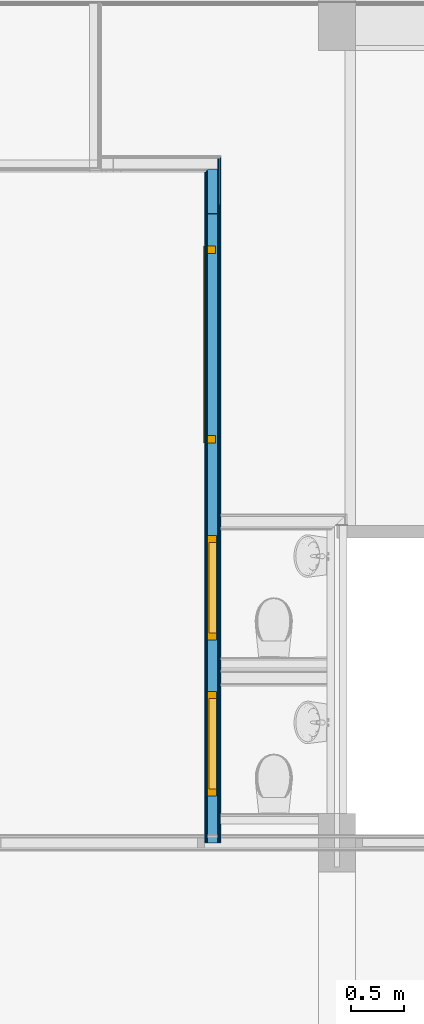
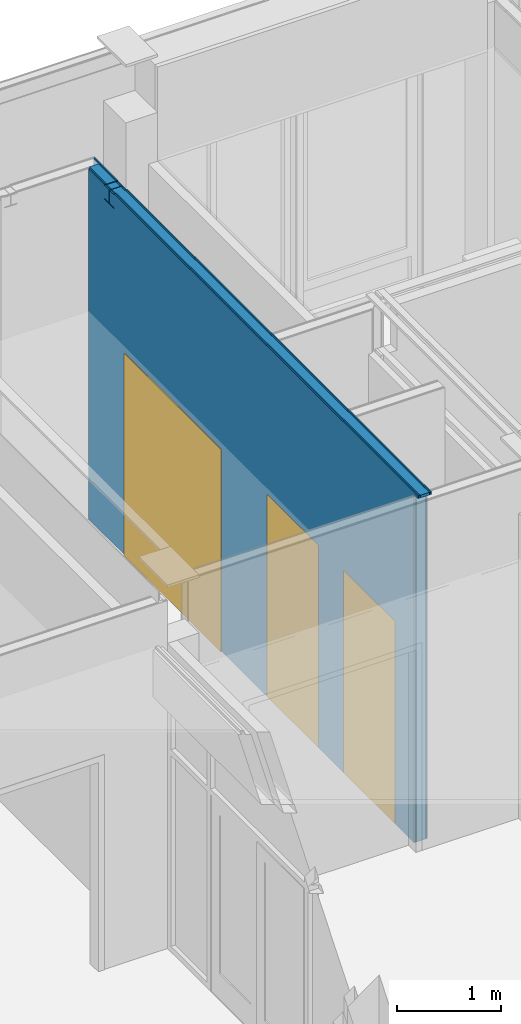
# One storey, part 24 of 109: 5 building element parts, 3 doors, 3 openings, 1 element without a shape of its own.
"""IFC2X3 building model written with IfcOpenShell, lengths in millimetres."""

from ifc_helpers import new_model, entity, si_unit, converted_unit, derived_unit, money_unit, direction, frame, origin_with_axes, place, context, subcontext, project, spatial, faceted_brep, source, transform, mapped, material, type_object, type_shapes, element, fill, aggregate, save


model = new_model("IFC2X3")

# Units and contexts
model_context = context("Model", 3, precision=0.01, world=origin_with_axes(), true_north=direction((0.0, 1.0)))
body_context = subcontext(model_context, "Body", "Model", "MODEL_VIEW")
ifc_project = project(units=[si_unit("LENGTHUNIT", "METRE", prefix="MILLI"), si_unit("AREAUNIT", "SQUARE_METRE"), si_unit("VOLUMEUNIT", "CUBIC_METRE"), converted_unit("PLANEANGLEUNIT", "DEGREE", entity("IfcPlaneAngleMeasure", 0.0174532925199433), si_unit("PLANEANGLEUNIT", "RADIAN"), dimensions=[0, 0, 0, 0, 0, 0, 0]), money_unit("EUR"), converted_unit("TIMEUNIT", "Year", entity("IfcTimeMeasure", 31557600.0), si_unit("TIMEUNIT", "SECOND"), dimensions=[0, 0, 1, 0, 0, 0, 0]), si_unit("MASSUNIT", "GRAM", prefix="KILO"), si_unit("THERMODYNAMICTEMPERATUREUNIT", "DEGREE_CELSIUS"), si_unit("LUMINOUSINTENSITYUNIT", "LUMEN"), si_unit("ENERGYUNIT", "JOULE", prefix="MEGA"), derived_unit("THERMALCONDUCTANCEUNIT", [(si_unit("POWERUNIT", "WATT"), 1), (si_unit("LENGTHUNIT", "METRE"), -1), (si_unit("THERMODYNAMICTEMPERATUREUNIT", "KELVIN"), -1)]), derived_unit("SPECIFICHEATCAPACITYUNIT", [(si_unit("ENERGYUNIT", "JOULE"), 1), (si_unit("MASSUNIT", "GRAM", prefix="KILO"), -1), (si_unit("THERMODYNAMICTEMPERATUREUNIT", "KELVIN"), -1)]), derived_unit("MASSDENSITYUNIT", [(si_unit("MASSUNIT", "GRAM", prefix="KILO"), 1), (si_unit("VOLUMEUNIT", "CUBIC_METRE"), -1)])], contexts=[model_context])

# Site, building, storey
site_placement = place(None, origin_with_axes())
site = spatial("IfcSite", under=ifc_project, at=site_placement, Name="<site naam>", CompositionType="ELEMENT")
building_placement = place(site_placement, origin_with_axes())
building = spatial("IfcBuilding", under=site, at=building_placement, Name="<Naam gebouw>", CompositionType="ELEMENT")
storey_placement = place(building_placement, origin_with_axes())
storey = spatial("IfcBuildingStorey", under=building, at=storey_placement, Name="00 Begane grond", CompositionType="ELEMENT", Elevation=0.0)

# Door
door_style_1 = type_object("IfcDoorStyle", Name="D1 27", ConstructionType="NOTDEFINED", OperationType="SINGLE_SWING_LEFT", ParameterTakesPrecedence=False, Sizeable=False)
shared_shape = source(origin_with_axes(), body_context, "Body", "Brep", [
    faceted_brep([(-442.0, -40.0, 0.0), (-425.0, -40.0, 0.0), (-425.0, -40.0, 12.0), (-442.0, -40.0, 12.0), (442.0, -40.0, 0.0), (425.0, -40.0, 0.0), (425.0, -114.0, 0.0), (-425.0, -114.0, 0.0), (-425.0, -114.0, 11.99999999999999), (425.0, -114.0, 11.99999999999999), (425.0, -40.0, 12.0), (442.0, -40.0, 12.0)], [[[0, 1, 2, 3]], [[0, 4, 5, 6, 7, 1]], [[1, 7, 8, 2]], [[3, 2, 8, 9, 10, 11]], [[4, 0, 3, 11]], [[5, 4, 11, 10]], [[6, 5, 10, 9]], [[7, 6, 9, 8]]]),
    faceted_brep([(425.0, -40.0, 0.0), (425.0, -114.0, 0.0), (425.0, -114.0, 2300.0), (425.0, -39.99999999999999, 2300.0), (442.0, -40.0, 0.0), (442.0, 0.0, 0.0), (492.0, 0.0, 0.0), (492.0, -114.0, 0.0), (492.0, -114.0, 2300.0), (442.0, -40.0, 2300.0), (492.0, 0.0, 2300.0), (442.0, 0.0, 2300.0)], [[[0, 1, 2, 3]], [[4, 5, 6, 7, 1, 0]], [[1, 7, 8, 2]], [[9, 3, 2, 8, 10, 11]], [[9, 4, 0, 3]], [[11, 5, 4, 9]], [[11, 10, 6, 5]], [[6, 10, 8, 7]]]),
    faceted_brep([(-442.0, -40.0, 2300.0), (-442.0, 0.0, 2300.0), (-492.0, 0.0, 2300.0), (-492.0, -114.0, 2300.0), (-425.0, -114.0, 2300.0), (-425.0, -39.99999999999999, 2300.0), (-442.0, -40.0, 0.0), (-442.0, 0.0, 0.0), (-492.0, 0.0, 0.0), (-492.0, -114.0, 0.0), (-425.0, -114.0, 0.0), (-425.0, -40.0, 0.0)], [[[0, 1, 2, 3, 4, 5]], [[0, 6, 7, 1]], [[7, 8, 2, 1]], [[2, 8, 9, 3]], [[3, 9, 10, 4]], [[5, 4, 10, 11]], [[5, 11, 6, 0]], [[6, 11, 10, 9, 8, 7]]]),
    faceted_brep([(442.0, 0.0, 2317.0), (-442.0, 0.0, 2317.0), (-442.0, 0.0, 2300.0), (-492.0, 0.0, 2300.0), (-492.0, 0.0, 2367.0), (492.0, 0.0, 2367.0), (492.0, 0.0, 2300.0), (442.0, 0.0, 2300.0), (442.0, -40.0, 2317.0), (-442.0, -40.0, 2317.0), (-442.0, -40.0, 2300.0), (-425.0, -39.99999999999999, 2300.0), (-425.0, -114.0, 2300.0), (-492.0, -114.0, 2300.0), (-492.0, -114.0, 2367.0), (492.0, -114.0, 2367.0), (492.0, -114.0, 2300.0), (442.0, -40.0, 2300.0), (425.0, -114.0, 2300.0), (425.0, -39.99999999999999, 2300.0)], [[[0, 1, 2, 3, 4, 5, 6, 7]], [[0, 8, 9, 1]], [[1, 9, 10, 2]], [[10, 11, 12, 13, 3, 2]], [[4, 3, 13, 14]], [[5, 4, 14, 15]], [[6, 5, 15, 16]], [[17, 7, 6, 16, 18, 19]], [[7, 17, 8, 0]], [[10, 9, 8, 17, 19, 11]], [[19, 18, 12, 11]], [[12, 18, 16, 15, 14, 13]]]),
    faceted_brep([(-442.0000000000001, 0.0, 0.0), (442.0, 0.0, 0.0), (442.0, -40.0, 0.0), (-442.0000000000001, -40.0, 0.0), (-442.0000000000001, 0.0, 2317.0), (442.0, 0.0, 2317.0), (442.0, -40.00000000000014, 2317.0), (-442.0000000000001, -40.00000000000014, 2317.0)], [[[0, 1, 2, 3]], [[0, 4, 5, 1]], [[1, 5, 6, 2]], [[3, 2, 6, 7]], [[4, 0, 3, 7]], [[5, 4, 7, 6]]]),
])
type_shapes(door_style_1, [shared_shape])
wall_placement = place(storey_placement, frame((14754.95500626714, 12000.00000000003, 0.0), z_axis=(0.0, 0.0, 1.0), x_axis=(0.0, 1.0, 0.0)))
opening_1_placement = place(wall_placement, frame((932.3998761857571, 0.0, 0.0), z_axis=(0.0, 0.0, 1.0), x_axis=(1.0, 0.0, 0.0)))
door_1_placement = place(opening_1_placement, frame((-425.0000000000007, 0.0, 0.0), z_axis=(0.0, 0.0, 1.0), x_axis=(1.0, 0.0, 0.0)))
door_1 = element("IfcDoor", 1, at=door_1_placement, inside=storey, type_object=door_style_1, Name="22_BI-A-01_305", ObjectType="DOOR", OverallHeight=2367.0, OverallWidth=984.0, context=body_context, shape_type="MappedRepresentation", body=[
    mapped(shared_shape, transform((425.0000000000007, 0.0, 0.0))),
])

opening_3_placement = place(wall_placement, frame((2400.219693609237, 0.0, 0.0), z_axis=(0.0, 0.0, 1.0), x_axis=(1.0, 0.0, 0.0)))
door_2_placement = place(opening_3_placement, frame((-425.0000000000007, 0.0, 0.0), z_axis=(0.0, 0.0, 1.0), x_axis=(1.0, 0.0, 0.0)))
door_2 = element("IfcDoor", 2, at=door_2_placement, inside=storey, type_object=door_style_1, Name="22_BI-A-01_305", ObjectType="DOOR", OverallHeight=2367.0, OverallWidth=984.0, context=body_context, shape_type="MappedRepresentation", body=[
    mapped(shared_shape, transform((425.0000000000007, 0.0, 0.0))),
])

door_style_2 = type_object("IfcDoorStyle", Name="D2 27", ConstructionType="NOTDEFINED", OperationType="DOUBLE_DOOR_SINGLE_SWING", ParameterTakesPrecedence=False, Sizeable=False)
opening_2_placement = place(wall_placement, frame((4686.253190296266, 0.0, 0.0), z_axis=(0.0, 0.0, 1.0), x_axis=(1.0, 0.0, 0.0)))
door_3_placement = place(opening_2_placement, frame((-924.669625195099, 0.0, 0.0), z_axis=(0.0, 0.0, 1.0), x_axis=(1.0, 0.0, 0.0)))
door_3 = element("IfcDoor", 3, at=door_3_placement, inside=storey, type_object=door_style_2, Name="22_BI-B-01_305", ObjectType="DOOR", OverallHeight=2367.0, OverallWidth=1849.34, context=body_context, shape_type="Brep", body=[
    faceted_brep([(1782.339250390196, -30.00000000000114, 0.0), (1782.339250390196, -104.000000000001, 0.0), (1782.339250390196, -104.000000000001, 2300.0), (1782.339250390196, -29.99999999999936, 2300.0), (1799.339250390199, -30.00000000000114, 0.0), (1799.339250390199, 9.999999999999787, 0.0), (1849.339250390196, 9.999999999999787, 0.0), (1849.339250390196, -104.000000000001, 0.0), (1849.339250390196, -104.000000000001, 2300.0), (1799.339250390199, -29.99999999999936, 2300.0), (1849.339250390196, 9.999999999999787, 2300.0), (1799.339250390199, 9.999999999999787, 2300.0)], [[[0, 1, 2, 3]], [[4, 5, 6, 7, 1, 0]], [[1, 7, 8, 2]], [[9, 3, 2, 8, 10, 11]], [[9, 4, 0, 3]], [[11, 5, 4, 9]], [[11, 10, 6, 5]], [[6, 10, 8, 7]]]),
    faceted_brep([(50.00000000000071, -29.99999999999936, 2300.0), (50.00000000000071, 9.999999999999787, 2300.0), (0.0, 9.999999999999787, 2300.0), (0.0, -103.9999999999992, 2300.0), (67.00000000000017, -103.9999999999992, 2300.0), (67.00000000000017, -29.99999999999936, 2300.0), (50.00000000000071, -29.99999999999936, 0.0), (50.00000000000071, 9.999999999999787, 0.0), (0.0, 9.999999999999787, 0.0), (0.0, -104.000000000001, 0.0), (67.00000000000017, -104.000000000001, 0.0), (67.00000000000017, -29.99999999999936, 0.0)], [[[0, 1, 2, 3, 4, 5]], [[0, 6, 7, 1]], [[7, 8, 2, 1]], [[2, 8, 9, 3]], [[3, 9, 10, 4]], [[5, 4, 10, 11]], [[5, 11, 6, 0]], [[6, 11, 10, 9, 8, 7]]]),
    faceted_brep([(1799.339250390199, 9.999999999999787, 2317.0), (50.00000000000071, 9.999999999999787, 2317.0), (50.00000000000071, 9.999999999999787, 2300.0), (0.0, 9.999999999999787, 2300.0), (0.0, 9.999999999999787, 2367.0), (1849.339250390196, 9.999999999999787, 2367.0), (1849.339250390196, 9.999999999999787, 2300.0), (1799.339250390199, 9.999999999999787, 2300.0), (1799.339250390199, -29.99999999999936, 2317.0), (50.00000000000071, -29.99999999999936, 2317.0), (50.00000000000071, -29.99999999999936, 2300.0), (67.00000000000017, -29.99999999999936, 2300.0), (67.00000000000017, -103.9999999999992, 2300.0), (0.0, -103.9999999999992, 2300.0), (0.0, -103.9999999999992, 2367.0), (1849.339250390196, -104.000000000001, 2367.0), (1849.339250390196, -104.000000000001, 2300.0), (1799.339250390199, -29.99999999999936, 2300.0), (1782.339250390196, -104.000000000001, 2300.0), (1782.339250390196, -29.99999999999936, 2300.0)], [[[0, 1, 2, 3, 4, 5, 6, 7]], [[0, 8, 9, 1]], [[1, 9, 10, 2]], [[10, 11, 12, 13, 3, 2]], [[4, 3, 13, 14]], [[5, 4, 14, 15]], [[6, 5, 15, 16]], [[17, 7, 6, 16, 18, 19]], [[7, 17, 8, 0]], [[10, 9, 8, 17, 19, 11]], [[19, 18, 12, 11]], [[12, 18, 16, 15, 14, 13]]]),
    faceted_brep([(50.00000000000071, 9.999999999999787, 0.0), (924.669625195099, 9.999999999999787, 0.0), (924.669625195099, -29.99999999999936, 0.0), (50.00000000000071, -29.99999999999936, 0.0), (50.00000000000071, 9.999999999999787, 2317.0), (924.669625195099, 9.999999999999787, 2317.0), (924.669625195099, -29.99999999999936, 2317.0), (50.00000000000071, -29.99999999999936, 2317.0)], [[[0, 1, 2, 3]], [[0, 4, 5, 1]], [[1, 5, 6, 2]], [[3, 2, 6, 7]], [[4, 0, 3, 7]], [[5, 4, 7, 6]]]),
    faceted_brep([(1799.339250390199, 9.999999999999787, 0.0), (1799.339250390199, -30.00000000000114, 0.0), (924.669625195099, -29.99999999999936, 0.0), (924.669625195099, 9.999999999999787, 0.0), (1799.339250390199, 9.999999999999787, 2317.0), (1799.339250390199, -30.00000000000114, 2317.0), (924.669625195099, -29.99999999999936, 2317.0), (924.669625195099, 9.999999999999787, 2317.0)], [[[0, 1, 2, 3]], [[4, 5, 1, 0]], [[1, 5, 6, 2]], [[3, 2, 6, 7]], [[0, 3, 7, 4]], [[7, 6, 5, 4]]]),
])

# Wall, opening
wall_type = type_object("IfcWallType", Name="MS-01 GF 150 ECO DGS/2.100.2.A 150", PredefinedType="NOTDEFINED")
wall = element("IfcWall", 4, at=wall_placement, inside=storey, type_object=wall_type, Name="22_Binnenwand_MS-01")
opening_1 = element("IfcOpeningElement", 5, at=opening_1_placement, cuts=wall, Name="22_BI-A-01_305", context=body_context, shape_type="Brep", body=[
    faceted_brep([(-491.9999999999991, -150.9999999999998, 2367.0), (-491.9999999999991, -150.9999999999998, 0.0), (491.9999999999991, -150.9999999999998, 0.0), (491.9999999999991, -150.9999999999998, 2367.0), (-491.9999999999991, 0.9999999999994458, 2367.0), (-491.9999999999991, 0.9999999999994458, 0.0), (491.9999999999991, 0.9999999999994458, 0.0), (491.9999999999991, 0.9999999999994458, 2367.0)], [[[0, 1, 2, 3]], [[4, 5, 1, 0]], [[5, 6, 2, 1]], [[6, 7, 3, 2]], [[7, 4, 0, 3]], [[6, 5, 4, 7]]]),
])

fill(opening_1, door_1)

# Opening
opening_2 = element("IfcOpeningElement", 6, at=opening_2_placement, cuts=wall, Name="22_BI-B-01_305", context=body_context, shape_type="Brep", body=[
    faceted_brep([(-924.669625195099, -150.9999999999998, 2367.0), (-924.669625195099, -150.9999999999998, 0.0), (924.6696251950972, -150.9999999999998, 0.0), (924.6696251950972, -150.9999999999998, 2367.0), (-924.669625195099, 0.9999999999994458, 2367.0), (-924.669625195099, 0.9999999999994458, 0.0), (924.6696251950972, 0.9999999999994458, 0.0), (924.6696251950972, 0.9999999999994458, 2367.0)], [[[0, 1, 2, 3]], [[4, 5, 1, 0]], [[5, 6, 2, 1]], [[6, 7, 3, 2]], [[7, 4, 0, 3]], [[6, 5, 4, 7]]]),
])

fill(opening_2, door_3)

opening_3 = element("IfcOpeningElement", 7, at=opening_3_placement, cuts=wall, Name="22_BI-A-01_305", context=body_context, shape_type="Brep", body=[
    faceted_brep([(-492.0000000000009, -150.9999999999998, 2367.0), (-492.0000000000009, -150.9999999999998, 0.0), (492.0000000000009, -150.9999999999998, 0.0), (492.0000000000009, -150.9999999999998, 2367.0), (-492.0000000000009, 0.9999999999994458, 2367.0), (-492.0000000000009, 0.9999999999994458, 0.0), (492.0000000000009, 0.9999999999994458, 0.0), (492.0000000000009, 0.9999999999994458, 2367.0)], [[[0, 1, 2, 3]], [[4, 5, 1, 0]], [[5, 6, 2, 1]], [[6, 7, 3, 2]], [[7, 4, 0, 3]], [[6, 5, 4, 7]]]),
])

fill(opening_3, door_2)

# Building element part
ifc_material_1 = material(Name="gipsplaat")
building_element_part_1_placement = place(wall_placement, origin_with_axes())
building_element_part_1 = element("IfcBuildingElementPart", 8, at=building_element_part_1_placement, material=ifc_material_1, Name="gipsplaat", context=body_context, shape_type="Brep", body=[
    faceted_brep([(6323.096022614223, -12.49999999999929, 4100.0), (6004.601273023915, -12.49999999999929, 4100.000014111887), (6004.601273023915, -25.00000000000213, 4100.000014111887), (6323.096022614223, -25.00000000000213, 4100.0), (5917.601263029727, -12.49999999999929, 4090.499903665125), (6004.601271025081, -12.49999999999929, 4090.499903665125), (6323.096022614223, -12.49999999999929, 0.0), (2943.795418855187, -12.49999999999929, 0.0), (2943.795418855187, -12.49999999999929, 3.000000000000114), (194.0948491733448, -12.49999999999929, 3.000000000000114), (194.0948491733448, -12.49999999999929, 0.0), (74.99999999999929, -12.49999999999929, 0.0), (75.00000000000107, -12.49999999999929, 4070.0), (0.0, -12.49999999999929, 4070.0), (0.0, -12.49999999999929, 4100.000000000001), (5824.601253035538, -12.49999999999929, 4100.000014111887), (5824.601255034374, -12.49999999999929, 4090.499903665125), (5911.601263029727, -12.49999999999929, 4090.499903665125), (5911.601263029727, -12.49999999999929, 3938.499955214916), (5824.601255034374, -12.49999999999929, 3938.499955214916), (5824.601253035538, -12.49999999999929, 3928.999844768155), (6004.601273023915, -12.49999999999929, 3928.999844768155), (6004.601271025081, -12.49999999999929, 3938.499955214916), (5917.601263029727, -12.49999999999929, 3938.499955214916), (6004.601271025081, -25.00000000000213, 4090.499903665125), (5911.601263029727, -25.00000000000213, 4090.499903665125), (5824.601255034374, -25.00000000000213, 4090.499903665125), (5824.601253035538, -25.00000000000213, 4100.000014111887), (0.0, -25.00000000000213, 4100.000000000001), (0.0, -25.00000000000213, 4070.0), (75.00000000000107, -25.00000000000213, 4070.0), (74.99999999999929, -25.00000000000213, 0.0), (194.1001450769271, -25.00000000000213, 0.0), (194.1001450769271, -25.00000000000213, 3.000000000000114), (2943.808860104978, -25.00000000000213, 3.000000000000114), (2943.808860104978, -25.00000000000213, 0.0), (6323.096022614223, -25.00000000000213, 0.0), (5917.601263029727, -25.00000000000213, 4090.499903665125), (5917.601263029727, -25.00000000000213, 3938.499955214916), (6004.601271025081, -25.00000000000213, 3938.499955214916), (6004.601273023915, -25.00000000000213, 3928.999844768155), (5824.601253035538, -25.00000000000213, 3928.999844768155), (5824.601255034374, -25.00000000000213, 3938.499955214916), (5911.601263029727, -25.00000000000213, 3938.499955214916)], [[[0, 1, 2, 3]], [[4, 5, 1, 0, 6, 7, 8, 9, 10, 11, 12, 13, 14, 15, 16, 17, 18, 19, 20, 21, 22, 23]], [[5, 24, 2, 1]], [[25, 26, 27, 28, 29, 30, 31, 32, 33, 34, 35, 36, 3, 2, 24, 37, 38, 39, 40, 41, 42, 43]], [[3, 36, 6, 0]], [[4, 37, 24, 5]], [[6, 36, 35, 7]], [[8, 7, 35, 34]], [[9, 8, 34, 33]], [[10, 9, 33, 32]], [[31, 11, 10, 32]], [[30, 12, 11, 31]], [[30, 29, 13, 12]], [[29, 28, 14, 13]], [[28, 27, 15, 14]], [[16, 15, 27, 26]], [[16, 26, 25, 17]], [[17, 25, 43, 18]], [[18, 43, 42, 19]], [[19, 42, 41, 20]], [[20, 41, 40, 21]], [[21, 40, 39, 22]], [[22, 39, 38, 23]], [[23, 38, 37, 4]]]),
])

building_element_part_2_placement = place(wall_placement, origin_with_axes())
building_element_part_2 = element("IfcBuildingElementPart", 9, at=building_element_part_2_placement, material=ifc_material_1, Name="gipsplaat", context=body_context, shape_type="Brep", body=[
    faceted_brep([(6435.596022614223, -125.0, 4100.0), (6004.601273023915, -125.0, 4100.000014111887), (6004.601273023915, -137.4999999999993, 4100.000014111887), (6435.596022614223, -137.4999999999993, 4100.0), (5917.601263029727, -125.0, 4090.499903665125), (6004.601271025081, -125.0, 4090.499903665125), (6435.596022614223, -125.0, 0.0), (2943.916390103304, -125.0, 0.0), (2943.916390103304, -125.0, 3.000000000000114), (194.1425123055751, -125.0, 3.000000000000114), (194.1425123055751, -125.0, 0.0), (74.99999999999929, -125.0, 0.0), (75.00000000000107, -125.0, 4070.0), (0.0, -125.0, 4070.0), (0.0, -125.0, 4100.000000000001), (5824.601253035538, -125.0, 4100.000014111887), (5824.601255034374, -125.0, 4090.499903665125), (5911.601263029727, -125.0, 4090.499903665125), (5911.601263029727, -125.0, 3938.499955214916), (5824.601255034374, -125.0, 3938.499955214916), (5824.601253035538, -125.0, 3928.999844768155), (6004.601273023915, -125.0, 3928.999844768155), (6004.601271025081, -125.0, 3938.499955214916), (5917.601263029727, -125.0, 3938.499955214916), (6004.601271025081, -137.4999999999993, 4090.499903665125), (5911.601263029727, -137.4999999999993, 4090.499903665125), (5824.601255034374, -137.4999999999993, 4090.499903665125), (5824.601253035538, -137.4999999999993, 4100.000014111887), (0.0, -137.4999999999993, 4100.000000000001), (0.0, -137.4999999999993, 4070.0), (75.00000000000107, -137.4999999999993, 4070.0), (74.99999999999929, -137.4999999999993, 0.0), (194.1478082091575, -137.4999999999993, 0.0), (194.1478082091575, -137.4999999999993, 3.000000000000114), (2943.929831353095, -137.4999999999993, 3.000000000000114), (2943.929831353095, -137.4999999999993, 0.0), (6435.596022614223, -137.4999999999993, 0.0), (5917.601263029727, -137.4999999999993, 4090.499903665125), (5917.601263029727, -137.4999999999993, 3938.499955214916), (6004.601271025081, -137.4999999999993, 3938.499955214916), (6004.601273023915, -137.4999999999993, 3928.999844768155), (5824.601253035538, -137.4999999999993, 3928.999844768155), (5824.601255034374, -137.4999999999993, 3938.499955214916), (5911.601263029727, -137.4999999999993, 3938.499955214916)], [[[0, 1, 2, 3]], [[4, 5, 1, 0, 6, 7, 8, 9, 10, 11, 12, 13, 14, 15, 16, 17, 18, 19, 20, 21, 22, 23]], [[5, 24, 2, 1]], [[25, 26, 27, 28, 29, 30, 31, 32, 33, 34, 35, 36, 3, 2, 24, 37, 38, 39, 40, 41, 42, 43]], [[3, 36, 6, 0]], [[4, 37, 24, 5]], [[6, 36, 35, 7]], [[8, 7, 35, 34]], [[9, 8, 34, 33]], [[10, 9, 33, 32]], [[31, 11, 10, 32]], [[30, 12, 11, 31]], [[30, 29, 13, 12]], [[29, 28, 14, 13]], [[28, 27, 15, 14]], [[16, 15, 27, 26]], [[16, 26, 25, 17]], [[17, 25, 43, 18]], [[18, 43, 42, 19]], [[19, 42, 41, 20]], [[20, 41, 40, 21]], [[21, 40, 39, 22]], [[22, 39, 38, 23]], [[23, 38, 37, 4]]]),
])

ifc_material_2 = material(Name="isolatie_steenwol LSW")
building_element_part_3_placement = place(wall_placement, origin_with_axes())
building_element_part_3 = element("IfcBuildingElementPart", 10, at=building_element_part_3_placement, material=ifc_material_2, Name="isolatie_steenwol LSW", context=body_context, shape_type="Brep", body=[
    faceted_brep([(6335.596022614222, -25.00000000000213, 4100.0), (6004.601273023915, -25.00000000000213, 4100.000014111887), (6004.601273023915, -125.0, 4100.000014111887), (6335.596022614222, -125.0, 4100.0), (5917.601263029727, -25.00000000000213, 4090.499903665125), (6004.601271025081, -25.00000000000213, 4090.499903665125), (6335.596022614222, -25.00000000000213, 0.0), (2943.808860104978, -24.99999999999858, 0.0), (2943.808860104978, -25.00000000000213, 3.000000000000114), (194.1001450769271, -25.00000000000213, 3.000000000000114), (194.1001450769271, -24.99999999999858, 0.0), (74.99999999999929, -24.99999999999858, 0.0), (75.00000000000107, -25.00000000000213, 4070.0), (0.0, -25.00000000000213, 4070.0), (0.0, -25.00000000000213, 4100.000000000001), (5824.601253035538, -25.00000000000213, 4100.000014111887), (5824.601255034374, -25.00000000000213, 4090.499903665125), (5911.601263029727, -25.00000000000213, 4090.499903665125), (5911.601263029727, -25.00000000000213, 3938.499955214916), (5824.601255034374, -25.00000000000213, 3938.499955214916), (5824.601253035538, -25.00000000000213, 3928.999844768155), (6004.601273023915, -25.00000000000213, 3928.999844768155), (6004.601271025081, -25.00000000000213, 3938.499955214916), (5917.601263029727, -25.00000000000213, 3938.499955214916), (6004.601271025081, -125.0, 4090.499903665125), (5911.601263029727, -125.0, 4090.499903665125), (5824.601255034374, -125.0, 4090.499903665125), (5824.601253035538, -125.0, 4100.000014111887), (0.0, -125.0, 4100.000000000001), (0.0, -125.0, 4070.0), (75.00000000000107, -125.0, 4070.0), (74.99999999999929, -125.0, 0.0), (194.1425123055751, -125.0, 0.0), (194.1425123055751, -125.0, 3.000000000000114), (2943.916390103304, -125.0, 3.000000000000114), (2943.916390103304, -125.0, 0.0), (6335.596022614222, -125.0, 0.0), (5917.601263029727, -125.0, 4090.499903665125), (5917.601263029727, -125.0, 3938.499955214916), (6004.601271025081, -125.0, 3938.499955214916), (6004.601273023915, -125.0, 3928.999844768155), (5824.601253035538, -125.0, 3928.999844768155), (5824.601255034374, -125.0, 3938.499955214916), (5911.601263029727, -125.0, 3938.499955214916)], [[[0, 1, 2, 3]], [[4, 5, 1, 0, 6, 7, 8, 9, 10, 11, 12, 13, 14, 15, 16, 17, 18, 19, 20, 21, 22, 23]], [[5, 24, 2, 1]], [[25, 26, 27, 28, 29, 30, 31, 32, 33, 34, 35, 36, 3, 2, 24, 37, 38, 39, 40, 41, 42, 43]], [[3, 36, 6, 0]], [[4, 37, 24, 5]], [[6, 36, 35, 7]], [[8, 7, 35, 34]], [[9, 8, 34, 33]], [[10, 9, 33, 32]], [[31, 11, 10, 32]], [[30, 12, 11, 31]], [[30, 29, 13, 12]], [[29, 28, 14, 13]], [[28, 27, 15, 14]], [[16, 15, 27, 26]], [[16, 26, 25, 17]], [[17, 25, 43, 18]], [[18, 43, 42, 19]], [[19, 42, 41, 20]], [[20, 41, 40, 21]], [[21, 40, 39, 22]], [[22, 39, 38, 23]], [[23, 38, 37, 4]]]),
])

building_element_part_4_placement = place(wall_placement, origin_with_axes())
building_element_part_4 = element("IfcBuildingElementPart", 11, at=building_element_part_4_placement, material=ifc_material_1, Name="gipsplaat", context=body_context, shape_type="Brep", body=[
    faceted_brep([(6448.096022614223, -137.4999999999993, 4100.0), (6004.601273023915, -137.4999999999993, 4100.000014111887), (6004.601273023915, -150.0000000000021, 4100.000014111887), (6448.096022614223, -150.0000000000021, 4100.0), (5917.601263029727, -137.4999999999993, 4090.499903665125), (6004.601271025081, -137.4999999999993, 4090.499903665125), (6448.096022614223, -137.4999999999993, 0.0), (2943.929831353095, -137.4999999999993, 0.0), (2943.929831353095, -137.4999999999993, 3.000000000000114), (194.1478082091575, -137.4999999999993, 3.000000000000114), (194.1478082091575, -137.4999999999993, 0.0), (74.99999999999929, -137.4999999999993, 0.0), (75.00000000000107, -137.4999999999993, 4070.0), (0.0, -137.4999999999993, 4070.0), (0.0, -137.4999999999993, 4100.000000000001), (5824.601253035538, -137.4999999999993, 4100.000014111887), (5824.601255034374, -137.4999999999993, 4090.499903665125), (5911.601263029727, -137.4999999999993, 4090.499903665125), (5911.601263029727, -137.4999999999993, 3938.499955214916), (5824.601255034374, -137.4999999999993, 3938.499955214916), (5824.601253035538, -137.4999999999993, 3928.999844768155), (6004.601273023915, -137.4999999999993, 3928.999844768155), (6004.601271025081, -137.4999999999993, 3938.499955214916), (5917.601263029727, -137.4999999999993, 3938.499955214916), (6004.601271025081, -149.9999999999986, 4090.499903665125), (5911.601263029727, -149.9999999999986, 4090.499903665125), (5824.601255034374, -149.9999999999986, 4090.499903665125), (5824.601253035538, -150.0000000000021, 4100.000014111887), (0.0, -150.0000000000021, 4100.000000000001), (0.0, -150.0000000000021, 4070.0), (75.00000000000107, -150.0000000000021, 4070.0), (74.99999999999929, -149.9999999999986, 0.0), (194.153104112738, -149.9999999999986, 0.0), (194.153104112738, -150.0000000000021, 3.000000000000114), (2943.943272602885, -150.0000000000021, 3.000000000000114), (2943.943272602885, -149.9999999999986, 0.0), (6448.096022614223, -150.0000000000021, 0.0), (5917.601263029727, -149.9999999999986, 4090.499903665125), (5917.601263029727, -149.9999999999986, 3938.499955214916), (6004.601271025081, -149.9999999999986, 3938.499955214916), (6004.601273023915, -149.9999999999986, 3928.999844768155), (5824.601253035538, -149.9999999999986, 3928.999844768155), (5824.601255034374, -149.9999999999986, 3938.499955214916), (5911.601263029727, -149.9999999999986, 3938.499955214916)], [[[0, 1, 2, 3]], [[4, 5, 1, 0, 6, 7, 8, 9, 10, 11, 12, 13, 14, 15, 16, 17, 18, 19, 20, 21, 22, 23]], [[5, 24, 2, 1]], [[25, 26, 27, 28, 29, 30, 31, 32, 33, 34, 35, 36, 3, 2, 24, 37, 38, 39, 40, 41, 42, 43]], [[3, 36, 6, 0]], [[4, 37, 24, 5]], [[6, 36, 35, 7]], [[8, 7, 35, 34]], [[9, 8, 34, 33]], [[10, 9, 33, 32]], [[31, 11, 10, 32]], [[30, 12, 11, 31]], [[30, 29, 13, 12]], [[29, 28, 14, 13]], [[28, 27, 15, 14]], [[16, 15, 27, 26]], [[16, 26, 25, 17]], [[17, 25, 43, 18]], [[18, 43, 42, 19]], [[19, 42, 41, 20]], [[20, 41, 40, 21]], [[21, 40, 39, 22]], [[22, 39, 38, 23]], [[23, 38, 37, 4]]]),
])

building_element_part_5_placement = place(wall_placement, origin_with_axes())
building_element_part_5 = element("IfcBuildingElementPart", 12, at=building_element_part_5_placement, material=ifc_material_1, Name="gipsplaat", context=body_context, shape_type="Brep", body=[
    faceted_brep([(6310.596022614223, 0.0, 4100.0), (6004.601273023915, 0.0, 4100.000014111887), (6004.601273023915, -12.49999999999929, 4100.000014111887), (6310.596022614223, -12.49999999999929, 4100.0), (5917.601263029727, 0.0, 4090.499903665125), (6004.601271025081, 0.0, 4090.499903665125), (6310.596022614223, 0.0, 0.0), (2943.781977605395, 0.0, 0.0), (2943.781977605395, 0.0, 3.000000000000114), (2634.399876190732, 0.0, 3.000000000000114), (2634.399876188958, 0.0, 0.0), (74.99999999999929, 0.0, 0.0), (75.00000000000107, 0.0, 4070.0), (0.0, 0.0, 4070.0), (0.0, 0.0, 4100.000000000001), (5824.601253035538, 0.0, 4100.000014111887), (5824.601255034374, 0.0, 4090.499903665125), (5911.601263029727, 0.0, 4090.499903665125), (5911.601263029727, 0.0, 3938.499955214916), (5824.601255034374, 0.0, 3938.499955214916), (5824.601253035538, 0.0, 3928.999844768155), (6004.601273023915, 0.0, 3928.999844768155), (6004.601271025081, 0.0, 3938.499955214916), (5917.601263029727, 0.0, 3938.499955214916), (6004.601271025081, -12.49999999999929, 4090.499903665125), (5911.601263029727, -12.49999999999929, 4090.499903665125), (5824.601255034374, -12.49999999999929, 4090.499903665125), (5824.601253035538, -12.49999999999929, 4100.000014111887), (0.0, -12.49999999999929, 4100.000000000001), (0.0, -12.49999999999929, 4070.0), (75.00000000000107, -12.49999999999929, 4070.0), (74.99999999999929, -12.49999999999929, 0.0), (194.0948491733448, -12.49999999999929, 0.0), (194.0948491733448, -12.49999999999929, 3.000000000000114), (2943.795418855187, -12.49999999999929, 3.000000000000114), (2943.795418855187, -12.49999999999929, 0.0), (6310.596022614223, -12.49999999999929, 0.0), (5917.601263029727, -12.49999999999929, 4090.499903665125), (5917.601263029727, -12.49999999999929, 3938.499955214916), (6004.601271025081, -12.49999999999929, 3938.499955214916), (6004.601273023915, -12.49999999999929, 3928.999844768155), (5824.601253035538, -12.49999999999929, 3928.999844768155), (5824.601255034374, -12.49999999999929, 3938.499955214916), (5911.601263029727, -12.49999999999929, 3938.499955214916), (194.089991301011, -1.033891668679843, 3.000000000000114), (194.089991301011, -1.033891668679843, 0.0)], [[[0, 1, 2, 3]], [[4, 5, 1, 0, 6, 7, 8, 9, 10, 11, 12, 13, 14, 15, 16, 17, 18, 19, 20, 21, 22, 23]], [[5, 24, 2, 1]], [[25, 26, 27, 28, 29, 30, 31, 32, 33, 34, 35, 36, 3, 2, 24, 37, 38, 39, 40, 41, 42, 43]], [[6, 0, 3, 36]], [[4, 37, 24, 5]], [[6, 36, 35, 7]], [[8, 7, 35, 34]], [[9, 8, 34, 33, 44]], [[9, 44, 45, 10]], [[11, 10, 45, 32, 31]], [[11, 31, 30, 12]], [[13, 12, 30, 29]], [[14, 13, 29, 28]], [[28, 27, 15, 14]], [[16, 15, 27, 26]], [[16, 26, 25, 17]], [[17, 25, 43, 18]], [[18, 43, 42, 19]], [[19, 42, 41, 20]], [[20, 41, 40, 21]], [[21, 40, 39, 22]], [[22, 39, 38, 23]], [[23, 38, 37, 4]], [[45, 44, 33, 32]]]),
])

aggregate(wall, [building_element_part_1, building_element_part_2, building_element_part_3, building_element_part_4, building_element_part_5])

save(model, "model.ifc")
